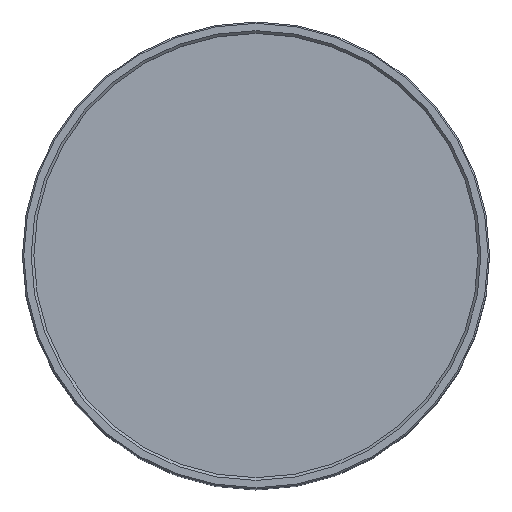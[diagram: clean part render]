
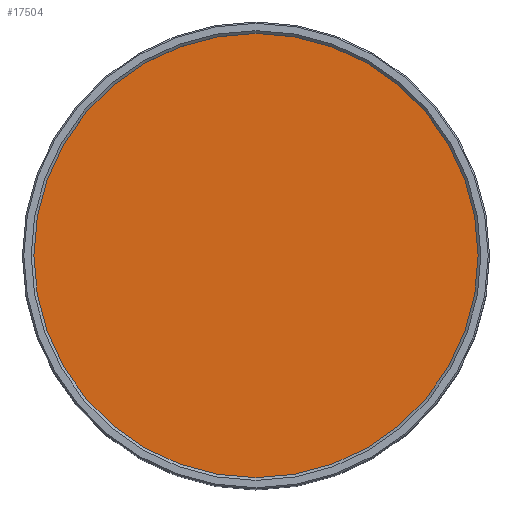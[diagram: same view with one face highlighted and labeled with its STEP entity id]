
A CAD part, top view. The second image highlights one B-rep face of the part: STEP entity #17504.
In plain terms, the highlighted planar face has unit normal (0, 0, 1).
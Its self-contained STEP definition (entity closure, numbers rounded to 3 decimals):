
#23 = VERTEX_POINT ( 'NONE', #17131 ) ;
#714 = CARTESIAN_POINT ( 'NONE',  ( 0., 0., 195.539 ) ) ;
#2146 = DIRECTION ( 'NONE',  ( -1., 0., 0. ) ) ;
#2404 = AXIS2_PLACEMENT_3D ( 'NONE', #13864, #4690, #14434 ) ;
#4690 = DIRECTION ( 'NONE',  ( 0., 0., -1. ) ) ;
#5492 = PLANE ( 'NONE',  #2404 ) ;
#10232 = EDGE_CURVE ( 'NONE', #23, #23, #16361, .T. ) ;
#10534 = DIRECTION ( 'NONE',  ( 0., 0., -1. ) ) ;
#12789 = FACE_OUTER_BOUND ( 'NONE', #13527, .T. ) ;
#13527 = EDGE_LOOP ( 'NONE', ( #16133 ) ) ;
#13864 = CARTESIAN_POINT ( 'NONE',  ( 0., 51.258, 195.539 ) ) ;
#14434 = DIRECTION ( 'NONE',  ( -1., 0., 0. ) ) ;
#16133 = ORIENTED_EDGE ( 'NONE', *, *, #10232, .F. ) ;
#16361 = CIRCLE ( 'NONE', #17515, 49.46 ) ;
#17131 = CARTESIAN_POINT ( 'NONE',  ( -49.46, 0., 195.539 ) ) ;
#17504 = ADVANCED_FACE ( 'NONE', ( #12789 ), #5492, .F. ) ;
#17515 = AXIS2_PLACEMENT_3D ( 'NONE', #714, #10534, #2146 ) ;
